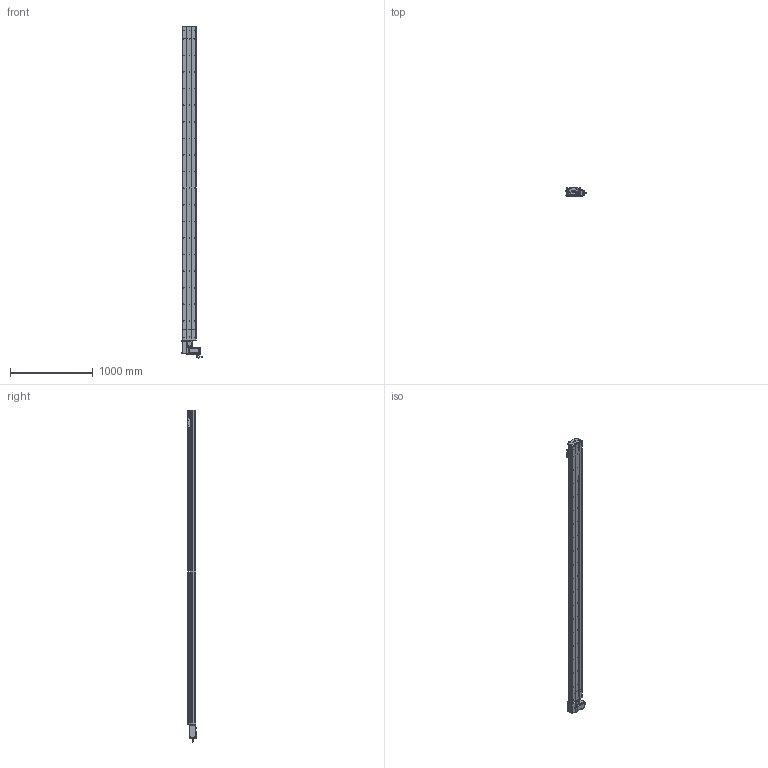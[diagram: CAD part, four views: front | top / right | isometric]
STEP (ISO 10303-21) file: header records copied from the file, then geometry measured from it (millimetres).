
FILE_DESCRIPTION (( 'STEP AP214' ), '1' );
FILE_NAME ('D17 TBN RH S3500.STEP', '2010-06-30T13:56:41', ( 'Conseil Régional Haute-Normandie' ), ( 'Conseil Régional Haute-Normandie' ), 'SwSTEP 2.0', 'SolidWorks 2010', '' );
FILE_SCHEMA (( 'AUTOMOTIVE_DESIGN' ));
Length unit declared in the file: millimetre
Products named in the file (40): Moteur motionking 90BLDC125A-640; couroie head D17_Default; poulie head_Default; vis M5 L5_Default; Arbre+rail head D17B; cache D17_Default; guide D17; chariot D17 TBN; vis M5 L25_Default; vis M5 L12_Default; vis M5 L8 90°_Default; couvercle D17B_Default; Couroie tail D17B_Default; poulie tail_Default; corp tail D17B+100_Default; Tail D17B+100_Default; Renvoi RH_Default; plaque de  bout tail D17B_Default; Chariot D17 TBN; Rail D17B; tete d''axe poulie D17B; cache arbre D17_Default; Vis M5 L16-2_Default; vis M5 L16_Default; Plaque racord D17_Default; vis M5 L70_Default; Conecteur_Default; avant 90BLDC125A-640; codeur 90BLDC125-640; corps 90BLDC125A-640; Conecteur2_Default; Couroie+ rail D17 Course 3500 ; course 3500 D17B_Default; D17 TBN RH S3500; Head RH D17B_Default; couvercle D17B course L3500_Default; corp D17B 3500_Default; plaque de  bout head D17B RH_Default; couvercle D17B head_Default; corpl head D17 _Default
Assembly tree (66 placements, depth 4):
  D17 TBN RH S3500
    chariot D17 TBN
      guide D17  x2
      Chariot D17 TBN
    Tail D17B+100_Default
      vis M5 L12_Default  x4
      vis M5 L8 90°_Default  x2
      poulie tail_Default
      vis M5 L25_Default  x2
      couvercle D17B_Default
      Rail D17B
      tete d''axe poulie D17B
      plaque de  bout tail D17B_Default
      Couroie tail D17B_Default
      corp tail D17B+100_Default
    Head RH D17B_Default
      vis M5 L12_Default  x8
      vis M5 L70_Default  x4
      vis M5 L5_Default  x4
      couvercle D17B head_Default
      Vis M5 L16-2_Default  x4
      vis M5 L16_Default  x2
      vis M5 L25_Default  x2
      cache arbre D17_Default
      Renvoi RH_Default
      Moteur motionking 90BLDC125A-640
        codeur 90BLDC125-640
        corps 90BLDC125A-640
        Conecteur2_Default
        Conecteur_Default
        avant 90BLDC125A-640
      couroie head D17_Default
      cache D17_Default  x2
      Plaque racord D17_Default
      poulie head_Default
      Arbre+rail head D17B
      plaque de  bout head D17B RH_Default
      corpl head D17 _Default
    course 3500 D17B_Default
      couvercle D17B course L3500_Default
      corp D17B 3500_Default
      Couroie+ rail D17 Course 3500 
Bounding box: 245.2 x 105.65 x 4000.95 mm (x, y, z)
Volume: 21904146.7 mm3; surface area: 6430510.3 mm2
Topology: 89 solids, 89 shells, 2691 faces, 6975 edges, 4494 vertices
Faces by surface type: plane 1537, cylinder 857, bspline 136, cone 80, torus 77, sphere 4
Entity records: 88125 total; most frequent: CARTESIAN_POINT 25981, ORIENTED_EDGE 11122, DIRECTION 10478, EDGE_CURVE 5561, VERTEX_POINT 3638, LINE 3588, VECTOR 3588, AXIS2_PLACEMENT_3D 3445
